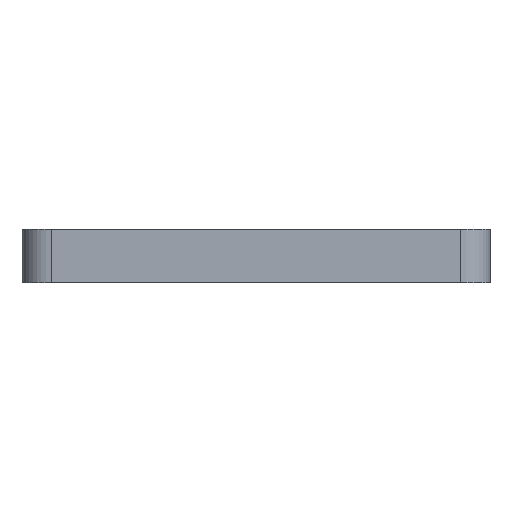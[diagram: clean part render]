
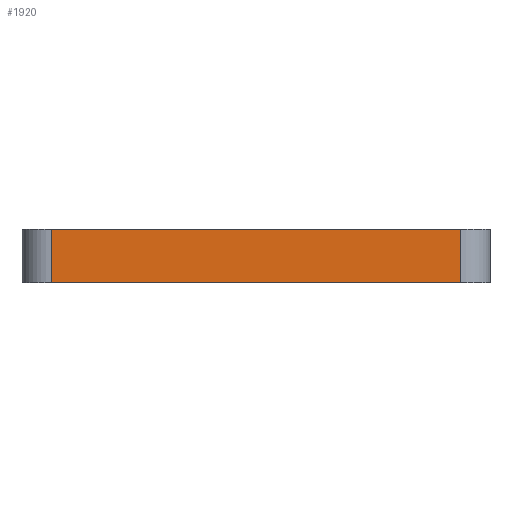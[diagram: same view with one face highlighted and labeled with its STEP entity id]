
A CAD part, left-side view. The second image highlights one B-rep face of the part: STEP entity #1920.
In plain terms, the highlighted planar face has unit normal (-1, 0, 0).
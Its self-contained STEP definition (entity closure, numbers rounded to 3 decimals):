
#513 = VERTEX_POINT('',#514);
#514 = CARTESIAN_POINT('',(-121.4,-69.35,0.));
#521 = EDGE_CURVE('',#522,#513,#524,.T.);
#522 = VERTEX_POINT('',#523);
#523 = CARTESIAN_POINT('',(-121.4,69.35,0.));
#524 = LINE('',#525,#526);
#525 = CARTESIAN_POINT('',(-121.4,69.35,0.));
#526 = VECTOR('',#527,1.);
#527 = DIRECTION('',(0.,-1.,0.));
#1125 = VERTEX_POINT('',#1126);
#1126 = CARTESIAN_POINT('',(-121.4,69.35,18.));
#1133 = EDGE_CURVE('',#1125,#1134,#1136,.T.);
#1134 = VERTEX_POINT('',#1135);
#1135 = CARTESIAN_POINT('',(-121.4,-69.35,18.));
#1136 = LINE('',#1137,#1138);
#1137 = CARTESIAN_POINT('',(-121.4,69.35,18.));
#1138 = VECTOR('',#1139,1.);
#1139 = DIRECTION('',(0.,-1.,0.));
#1908 = EDGE_CURVE('',#522,#1125,#1909,.T.);
#1909 = LINE('',#1910,#1911);
#1910 = CARTESIAN_POINT('',(-121.4,69.35,0.));
#1911 = VECTOR('',#1912,1.);
#1912 = DIRECTION('',(0.,0.,1.));
#1920 = ADVANCED_FACE('',(#1921),#1932,.T.);
#1921 = FACE_BOUND('',#1922,.T.);
#1922 = EDGE_LOOP('',(#1923,#1924,#1930,#1931));
#1923 = ORIENTED_EDGE('',*,*,#521,.T.);
#1924 = ORIENTED_EDGE('',*,*,#1925,.T.);
#1925 = EDGE_CURVE('',#513,#1134,#1926,.T.);
#1926 = LINE('',#1927,#1928);
#1927 = CARTESIAN_POINT('',(-121.4,-69.35,0.));
#1928 = VECTOR('',#1929,1.);
#1929 = DIRECTION('',(0.,0.,1.));
#1930 = ORIENTED_EDGE('',*,*,#1133,.F.);
#1931 = ORIENTED_EDGE('',*,*,#1908,.F.);
#1932 = PLANE('',#1933);
#1933 = AXIS2_PLACEMENT_3D('',#1934,#1935,#1936);
#1934 = CARTESIAN_POINT('',(-121.4,0.,9.));
#1935 = DIRECTION('',(-1.,-0.,-0.));
#1936 = DIRECTION('',(0.,0.,-1.));
